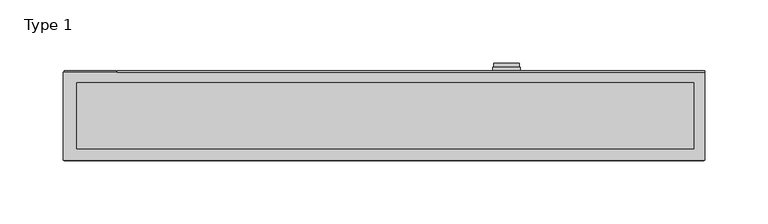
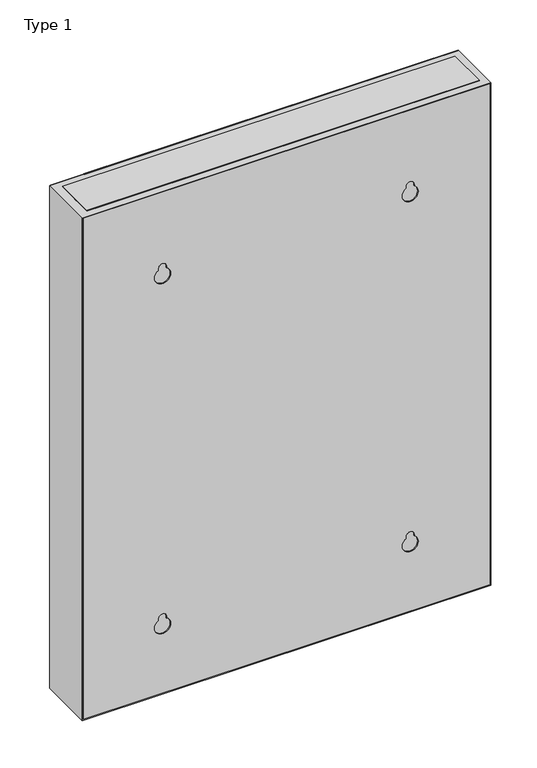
"""IFC4 building model written with IfcOpenShell, lengths in millimetres: proxy geometry, PDB-200 - 208V_OR_120V_Distribution_Panel_Wallmount_BIM_Model : Type 1."""

import ifcopenshell
import ifcopenshell.guid

model = None  # the IFC model being written
_history = None  # IfcOwnerHistory: only IFC2X3 demands one
_inside = {}  # id of a spatial element -> (the spatial element, [elements in it])
_under = {}  # id of a project, library or spatial element -> (it, [spatial elements below it])
_declared = {}  # id of a project -> (the project, [libraries it declares])
_typed = {}  # id of a type object -> (the type object, [elements of that type])
_made_of = {}  # id of a material, layer set ... -> (it, [elements and type objects made of it])


def new_model(schema):
    """Start an empty IFC model of exactly this schema.

    Asked for "IFC4X3", IfcOpenShell would pick the latest addendum, in which some entities
    have other attributes; the version numbers below select the first issue.
    IFC2X3 requires an IfcOwnerHistory on every rooted entity: one is made here for all.
    """
    global model, _history
    if schema == "IFC4X3":
        model = ifcopenshell.file(schema_version=(4, 3, 0, 0))
    else:
        model = ifcopenshell.file(schema=schema)
    _inside.clear()
    _under.clear()
    _declared.clear()
    _typed.clear()
    _made_of.clear()
    _history = None
    if model.schema == "IFC2X3":
        org = make("IfcOrganization", Name="unknown")
        user = make(
            "IfcPersonAndOrganization",
            ThePerson=make("IfcPerson", FamilyName="unknown"),
            TheOrganization=org,
        )
        app = make(
            "IfcApplication",
            ApplicationDeveloper=org,
            Version="unknown",
            ApplicationFullName="unknown",
            ApplicationIdentifier="unknown",
        )
        _history = make(
            "IfcOwnerHistory",
            OwningUser=user,
            OwningApplication=app,
            ChangeAction="ADDED",
            CreationDate=0,
        )
    return model


def make(cls, **values):
    """One entity of the class cls with the attributes given. An attribute that is None is left unset."""
    return model.create_entity(
        cls, **{name: value for name, value in values.items() if value is not None}
    )


def rooted(cls, **values):
    """An entity with a GlobalId (a new one), such as an element, a storey or a relation."""
    return make(cls, GlobalId=ifcopenshell.guid.new(), OwnerHistory=_history, **values)


def si_unit(unit_type, name, prefix=None):
    """IfcSIUnit, for example si_unit("LENGTHUNIT", "METRE", prefix="MILLI")."""
    return make("IfcSIUnit", UnitType=unit_type, Prefix=prefix, Name=name)


def assignment(units):
    """IfcUnitAssignment: the units of a project."""
    return None if units is None else make("IfcUnitAssignment", Units=units)


def point(xyz):
    """IfcCartesianPoint."""
    return None if xyz is None else make("IfcCartesianPoint", Coordinates=xyz)


def direction(xyz):
    """IfcDirection."""
    return None if xyz is None else make("IfcDirection", DirectionRatios=xyz)


def frame(location, z_axis=None, x_axis=None):
    """IfcAxis2Placement3D, a coordinate frame: its origin and axes. An axis left out is left unset."""
    return make(
        "IfcAxis2Placement3D",
        Location=point(location),
        Axis=direction(z_axis),
        RefDirection=direction(x_axis),
    )


def frame_2d(location, x_axis=None):
    """IfcAxis2Placement2D, a coordinate frame in the plane: its origin and x axis."""
    return make(
        "IfcAxis2Placement2D", Location=point(location), RefDirection=direction(x_axis)
    )


def origin():
    """The frame at (0, 0, 0) with its axes left unset."""
    return frame((0.0, 0.0, 0.0))


def place(relative_to, where):
    """IfcLocalPlacement: puts the frame where relative to a parent placement (None: the world)."""
    return make(
        "IfcLocalPlacement", PlacementRelTo=relative_to, RelativePlacement=where
    )


def context(
    kind, dimensions, precision=None, world=None, true_north=None, identifier=None
):
    """IfcGeometricRepresentationContext, for example the 3D "Model" context."""
    return make(
        "IfcGeometricRepresentationContext",
        ContextIdentifier=identifier,
        ContextType=kind,
        CoordinateSpaceDimension=dimensions,
        Precision=precision,
        WorldCoordinateSystem=world,
        TrueNorth=true_north,
    )


def project(units=None, contexts=None):
    """IfcProject with its units and contexts."""
    return rooted(
        "IfcProject",
        Name="project",
        RepresentationContexts=contexts,
        UnitsInContext=assignment(units),
    )


def spatial(cls, under=None, at=None, **own):
    """A site, building, storey or space (cls), placed at a placement, below another one or the project."""
    s = rooted(cls, ObjectPlacement=at, **own)
    if under is not None:
        _under.setdefault(under.id(), (under, []))[1].append(s)
    return s


def polyline(points):
    """IfcPolyline through the points."""
    return make("IfcPolyline", Points=[point(p) for p in points])


def circle_curve(where, radius):
    """IfcCircle in the frame where."""
    return make("IfcCircle", Position=where, Radius=radius)


def trimmed(basis, trim1, trim2, sense, master):
    """IfcTrimmedCurve: the piece of a basis curve between two trims."""
    return make(
        "IfcTrimmedCurve",
        BasisCurve=basis,
        Trim1=trim1,
        Trim2=trim2,
        SenseAgreement=sense,
        MasterRepresentation=master,
    )


def segment(curve, same_sense, transition):
    """IfcCompositeCurveSegment."""
    return make(
        "IfcCompositeCurveSegment",
        Transition=transition,
        SameSense=same_sense,
        ParentCurve=curve,
    )


def composite_curve(segments, self_intersect=None):
    """IfcCompositeCurve: segments joined end to end."""
    return make("IfcCompositeCurve", Segments=segments, SelfIntersect=self_intersect)


def outline(outer, holes=None, kind="AREA"):
    """IfcArbitraryClosedProfileDef: a profile drawn as a closed curve; with holes, ...WithVoids."""
    if holes is None:
        return make("IfcArbitraryClosedProfileDef", ProfileType=kind, OuterCurve=outer)
    return make(
        "IfcArbitraryProfileDefWithVoids",
        ProfileType=kind,
        OuterCurve=outer,
        InnerCurves=holes,
    )


def extrude(swept, where, along, depth):
    """IfcExtrudedAreaSolid: the profile swept, set in the frame where, extruded along a direction by depth."""
    return make(
        "IfcExtrudedAreaSolid",
        SweptArea=swept,
        Position=where,
        ExtrudedDirection=direction(along),
        Depth=depth,
    )


def shape(context_of_items, identifier, shape_type, items):
    """IfcShapeRepresentation: the items that make up one representation, for example the "Body"."""
    return make(
        "IfcShapeRepresentation",
        ContextOfItems=context_of_items,
        RepresentationIdentifier=identifier,
        RepresentationType=shape_type,
        Items=items,
    )


def source(mapping_origin, context_of_items, identifier, shape_type, items):
    """IfcRepresentationMap: a shape defined once, which mapped items show again and again."""
    return make(
        "IfcRepresentationMap",
        MappingOrigin=mapping_origin,
        MappedRepresentation=shape(context_of_items, identifier, shape_type, items),
    )


def transform(
    local_origin,
    x_axis=None,
    y_axis=None,
    z_axis=None,
    scale=None,
    scale2=None,
    scale3=None,
    uniform=True,
):
    """IfcCartesianTransformationOperator3D, or its non-uniform kind. x_axis, y_axis, z_axis: its Axis1, 2, 3."""
    if uniform:
        return make(
            "IfcCartesianTransformationOperator3D",
            Axis1=direction(x_axis),
            Axis2=direction(y_axis),
            LocalOrigin=point(local_origin),
            Scale=scale,
            Axis3=direction(z_axis),
        )
    return make(
        "IfcCartesianTransformationOperator3DnonUniform",
        Axis1=direction(x_axis),
        Axis2=direction(y_axis),
        LocalOrigin=point(local_origin),
        Scale=scale,
        Axis3=direction(z_axis),
        Scale2=scale2,
        Scale3=scale3,
    )


def mapped(mapping_source, mapping_target):
    """IfcMappedItem: shows the shape of a source again, moved by a transform."""
    return make(
        "IfcMappedItem", MappingSource=mapping_source, MappingTarget=mapping_target
    )


def made_of(thing, what):
    """Note that an element or type object is made of a material, layer set ...; save() writes the relation."""
    if what is not None:
        _made_of.setdefault(what.id(), (what, []))[1].append(thing)
    return thing


def element(
    cls,
    number,
    at=None,
    inside=None,
    cuts=None,
    type_object=None,
    material=None,
    context=None,
    identifier="Body",
    shape_type=None,
    held_by="IfcProductDefinitionShape",
    body=None,
    shapes=None,
    **own,
):
    """One element of the class cls, such as IfcWall. Its Tag is "e" and its number.

    at: its placement. inside: the storey or other place that contains it. cuts: it is an
    opening in that element (IfcRelVoidsElement). A single representation is given by context,
    identifier, shape_type and body (its items); several are given by shapes. held_by: the class
    of the entity that holds the representations. save() writes the other relations.
    """
    e = rooted(cls, Tag="e%d" % number, ObjectPlacement=at, **own)
    if body is not None:
        shapes = [shape(context, identifier, shape_type, body)]
    if shapes is not None:
        e.Representation = make(held_by, Representations=shapes)
    if inside is not None:
        _inside.setdefault(inside.id(), (inside, []))[1].append(e)
    if cuts is not None:
        rooted(
            "IfcRelVoidsElement", RelatingBuildingElement=cuts, RelatedOpeningElement=e
        )
    if type_object is not None:
        _typed.setdefault(type_object.id(), (type_object, []))[1].append(e)
    return made_of(e, material)


def aggregate(whole, parts):
    """IfcRelAggregates: a whole, such as a stair, and the parts it consists of."""
    return rooted("IfcRelAggregates", RelatingObject=whole, RelatedObjects=parts)


def save(model, path):
    """Write the relations noted so far, then the file.

    IfcRelAggregates (storeys below a building ...), IfcRelContainedInSpatialStructure (elements
    in a storey), IfcRelDefinesByType, IfcRelAssociatesMaterial and IfcRelDeclares: one each for
    every whole, place, type object, material and project.
    """
    for whole, parts in _under.values():
        aggregate(whole, parts)
    for where, things in _inside.values():
        rooted(
            "IfcRelContainedInSpatialStructure",
            RelatedElements=things,
            RelatingStructure=where,
        )
    for kind, things in _typed.values():
        rooted("IfcRelDefinesByType", RelatedObjects=things, RelatingType=kind)
    for what, things in _made_of.values():
        rooted("IfcRelAssociatesMaterial", RelatedObjects=things, RelatingMaterial=what)
    for by, libraries in _declared.values():
        rooted("IfcRelDeclares", RelatingContext=by, RelatedDefinitions=libraries)
    model.write(path)


def type_1_306bd327(model_context):
    return source(origin(), model_context, "Body", "SweptSolid", [
        extrude(outline(polyline([(1661.8105, -253.0019074), (1003.7201708, -253.0019074), (1003.7201708, 253.0019074), (1661.8105, 253.0019074), (1661.8105, -253.0019074)]), holes=[composite_curve([segment(trimmed(circle_curve(frame_2d((1562.5846885, 154.050553)), 5.0), [point((1562.5846885, 149.050553))], [point((1562.5846885, 159.050553))], True, "CARTESIAN"), True, "CONTINUOUS"), segment(polyline([(1562.5846885, 159.050553), (1560.4927236, 159.050553)]), True, "CONTINUOUS"), segment(trimmed(circle_curve(frame_2d((1551.8324696, 154.050553)), 10.0), [point((1560.4927236, 159.050553))], [point((1560.4927236, 149.050553))], True, "CARTESIAN"), True, "CONTINUOUS"), segment(polyline([(1560.4927236, 149.050553), (1562.5846885, 149.050553)]), True, "CONTINUOUS")], self_intersect=False), composite_curve([segment(trimmed(circle_curve(frame_2d((1562.5846885, -153.949447)), 5.0), [point((1562.5846885, -158.949447))], [point((1562.5846885, -148.949447))], True, "CARTESIAN"), True, "CONTINUOUS"), segment(polyline([(1562.5846885, -148.949447), (1560.4927236, -148.949447)]), True, "CONTINUOUS"), segment(trimmed(circle_curve(frame_2d((1551.8324696, -153.949447)), 10.0), [point((1560.4927236, -148.949447))], [point((1560.4927236, -158.949447))], True, "CARTESIAN"), True, "CONTINUOUS"), segment(polyline([(1560.4927236, -158.949447), (1562.5846885, -158.949447)]), True, "CONTINUOUS")], self_intersect=False), composite_curve([segment(trimmed(circle_curve(frame_2d((1102.5846885, 154.050553)), 5.0), [point((1102.5846885, 149.050553))], [point((1102.5846885, 159.050553))], True, "CARTESIAN"), True, "CONTINUOUS"), segment(polyline([(1102.5846885, 159.050553), (1100.4927236, 159.050553)]), True, "CONTINUOUS"), segment(trimmed(circle_curve(frame_2d((1091.8324696, 154.050553)), 10.0), [point((1100.4927236, 159.050553))], [point((1100.4927236, 149.050553))], True, "CARTESIAN"), True, "CONTINUOUS"), segment(polyline([(1100.4927236, 149.050553), (1102.5846885, 149.050553)]), True, "CONTINUOUS")], self_intersect=False), composite_curve([segment(trimmed(circle_curve(frame_2d((1102.5846885, -153.949447)), 5.0), [point((1102.5846885, -158.949447))], [point((1102.5846885, -148.949447))], True, "CARTESIAN"), True, "CONTINUOUS"), segment(polyline([(1102.5846885, -148.949447), (1100.4927236, -148.949447)]), True, "CONTINUOUS"), segment(trimmed(circle_curve(frame_2d((1091.8324696, -153.949447)), 10.0), [point((1100.4927236, -148.949447))], [point((1100.4927236, -158.949447))], True, "CARTESIAN"), True, "CONTINUOUS"), segment(polyline([(1100.4927236, -158.949447), (1102.5846885, -158.949447)]), True, "CONTINUOUS")], self_intersect=False)]), frame((0.0, 384.0684672, 0.0), z_axis=(0.0, 1.0, 0.0), x_axis=(0.0, 0.0, 1.0)), (0.0, 0.0, 1.0), 0.9625754),
        extrude(outline(polyline([(245.1030134, 445.4500084), (245.1030134, 393.2536684), (-243.0019074, 393.2536684), (-243.0019074, 445.4500084), (245.1030134, 445.4500084)])), frame((0.0, 0.0, 1662.5846885), z_axis=(0.0, 0.0, 1.0), x_axis=(1.0, 0.0, 0.0)), (0.0, 0.0, 1.0), 1.0190412),
        extrude(outline(polyline([(245.1030134, 445.4500084), (245.1030134, 393.2536684), (-243.0019074, 393.2536684), (-243.0019074, 445.4500084), (245.1030134, 445.4500084)])), frame((0.0, 0.0, 1001.2301619), z_axis=(0.0, 0.0, 1.0), x_axis=(1.0, 0.0, 0.0)), (0.0, 0.0, 1.0), 1.3545267),
        extrude(outline(polyline([(1662.5846885, -211.0108438), (1002.5846885, -211.0108438), (1002.5846885, 254.050553), (1662.5846885, 254.050553), (1662.5846885, -211.0108438)]), holes=[polyline([(1580.351105, -164.6014451), (1580.351105, 175.3985549), (1090.6943454, 175.3985549), (1090.6943454, -164.6014451), (1580.351105, -164.6014451)])]), frame((0.0, 454.0682426, 0.0), z_axis=(0.0, 1.0, 0.0), x_axis=(0.0, 0.0, 1.0)), (0.0, 0.0, 1.0), 0.9317574),
        extrude(outline(polyline([(174.8985549, 454.0682426), (-164.1014451, 454.0682426), (-164.1014451, 455.0), (174.8985549, 455.0), (174.8985549, 454.0682426)])), frame((0.0, 0.0, 1091.1943454), z_axis=(0.0, 0.0, 1.0), x_axis=(1.0, 0.0, 0.0)), (0.0, 0.0, 1.0), 488.6567596),
        extrude(outline(polyline([(1662.5846885, -253.949447), (1002.5846885, -253.949447), (1002.5846885, 254.050553), (1662.5846885, 254.050553), (1662.5846885, -253.949447)]), holes=[polyline([(1661.8105, -253.0019074), (1661.8105, 253.0019074), (1003.7201708, 253.0019074), (1003.7201708, -253.0019074), (1661.8105, -253.0019074)])]), frame((0.0, 384.0684672, 0.0), z_axis=(0.0, 1.0, 0.0), x_axis=(0.0, 0.0, 1.0)), (0.0, 0.0, 1.0), 69.9997753),
        extrude(outline(polyline([(-212.0019074, 454.0682426), (-253.0019074, 454.0682426), (-253.0019074, 455.0), (-212.0019074, 455.0), (-212.0019074, 454.0682426)])), frame((0.0, 0.0, 1002.5846885), z_axis=(0.0, 0.0, 1.0), x_axis=(1.0, 0.0, 0.0)), (0.0, 0.0, 1.0), 660.0),
        extrude(outline(composite_curve([segment(trimmed(circle_curve(frame_2d((1355.1281656, 96.998748)), 10.0), [point((1355.1281656, 86.998748))], [point((1355.1281656, 106.998748))], False, "CARTESIAN"), True, "CONTINUOUS"), segment(trimmed(circle_curve(frame_2d((1355.1281656, 96.998748)), 10.0), [point((1355.1281656, 106.998748))], [point((1355.1281656, 86.998748))], False, "CARTESIAN"), True, "CONTINUOUS")], self_intersect=False), holes=[polyline([(1362.2099321, 95.0693114), (1362.2099321, 98.854378), (1347.2099321, 98.854378), (1347.2099321, 95.0693114), (1362.2099321, 95.0693114)])]), frame((0.0, 458.0557159, 0.0), z_axis=(0.0, 1.0, 0.0), x_axis=(0.0, 0.0, 1.0)), (0.0, 0.0, 1.0), 3.0401587),
        extrude(outline(polyline([(107.9737314, 458.0557159), (107.9737314, 455.0), (85.9737314, 455.0), (85.9737314, 458.0557159), (107.9737314, 458.0557159)])), frame((0.0, 0.0, 1290.0770102), z_axis=(0.0, 0.0, 1.0), x_axis=(1.0, 0.0, 0.0)), (0.0, 0.0, 1.0), 84.5076783),
    ])


if __name__ == "__main__":
    model = new_model("IFC4")
    model_context = context("Model", 3, world=origin())
    ifc_project = project(units=[si_unit("LENGTHUNIT", "METRE", prefix="MILLI")], contexts=[model_context])
    site = spatial("IfcSite", under=ifc_project)
    building = spatial("IfcBuilding", under=site)
    placement = place(None, origin())
    type_1_shape = type_1_306bd327(model_context)
    element("IfcBuildingElementProxy", 1, Name="PDB-200 - 208V_OR_120V_Distribution_Panel_Wallmount_BIM_Model : Type 1", ObjectType="PDB-200 - 208V_OR_120V_Distribution_Panel_Wallmount_BIM_Model : Type 1", at=placement, inside=building, context=model_context, shape_type="MappedRepresentation", body=[
        mapped(type_1_shape, transform((0.0, 0.0, 0.0), x_axis=(1.0, 0.0, 0.0), y_axis=(0.0, 1.0, 0.0), z_axis=(0.0, 0.0, 1.0))),
    ])
    save(model, "model.ifc")
